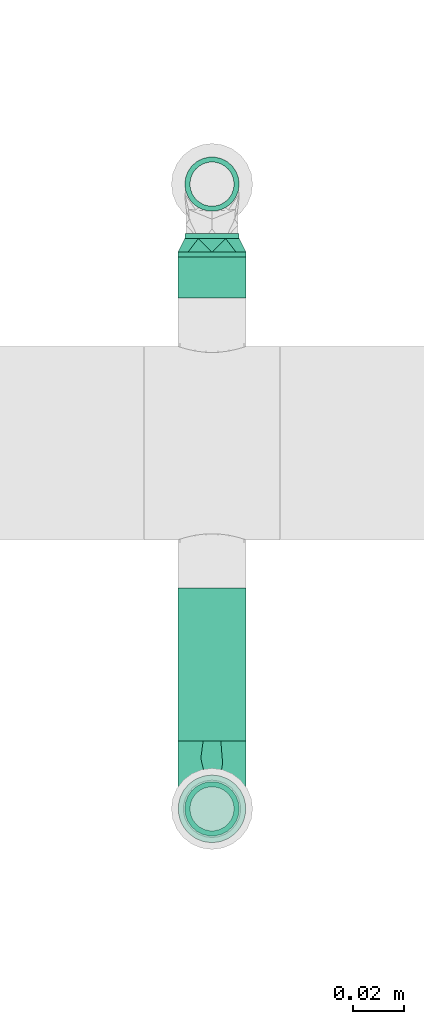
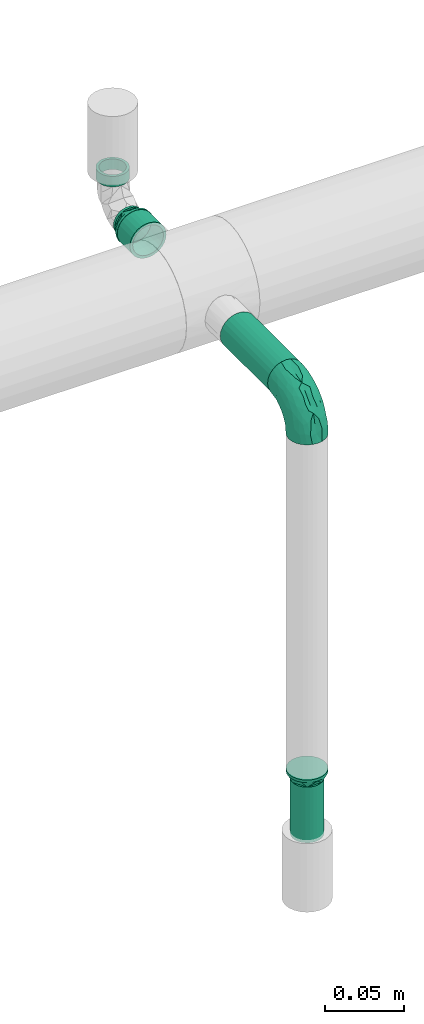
# One storey, part 24 of 51: 4 flow segments, 3 flow fittings.
"""IFC2X3 building model written with IfcOpenShell, lengths in millimetres."""

from ifc_helpers import new_model, entity, si_unit, converted_unit, derived_unit, direction, frame, origin_with_axes, origin_2d_with_axis, place, context, subcontext, project, spatial, hollow_circle, extrude, open_shell, surface_model, source, transform, mapped, type_object, element, save


model = new_model("IFC2X3")

# Units and contexts
model_context = context("Model", 3, precision=0.01, world=frame((0.0, 4.29681676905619e-09, 0.0)), true_north=direction((4.01073788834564e-13, 1.0)))
plan_context = context("Plan", 3, precision=0.01, world=frame((0.0, 4.29681676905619e-09, 0.0)), true_north=direction((4.01073788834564e-13, 1.0)))
body_context = subcontext(model_context, "Body", "Model", "MODEL_VIEW")
ifc_project = project(units=[converted_unit("PLANEANGLEUNIT", "DEGREE", entity("IfcPositiveLengthMeasure", 0.0174532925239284), si_unit("PLANEANGLEUNIT", "RADIAN"), dimensions=[0, 0, 0, 0, 0, 0, 0]), si_unit("AREAUNIT", "SQUARE_METRE"), si_unit("LENGTHUNIT", "METRE", prefix="MILLI"), si_unit("MASSUNIT", "GRAM", prefix="KILO"), si_unit("POWERUNIT", "WATT"), si_unit("PRESSUREUNIT", "PASCAL"), si_unit("FORCEUNIT", "NEWTON", prefix="KILO"), si_unit("ELECTRICVOLTAGEUNIT", "VOLT"), si_unit("ELECTRICCURRENTUNIT", "AMPERE"), si_unit("THERMODYNAMICTEMPERATUREUNIT", "DEGREE_CELSIUS"), si_unit("TIMEUNIT", "SECOND"), si_unit("VOLUMEUNIT", "CUBIC_METRE"), derived_unit("LINEARVELOCITYUNIT", [(si_unit("LENGTHUNIT", "METRE"), 1), (si_unit("TIMEUNIT", "SECOND"), -1)]), derived_unit("VOLUMETRICFLOWRATEUNIT", [(si_unit("VOLUMEUNIT", "CUBIC_METRE"), 1), (si_unit("TIMEUNIT", "SECOND"), -1)]), derived_unit("THERMALTRANSMITTANCEUNIT", [(si_unit("POWERUNIT", "WATT"), 1), (si_unit("THERMODYNAMICTEMPERATUREUNIT", "KELVIN"), -1), (si_unit("AREAUNIT", "SQUARE_METRE"), -1)]), derived_unit("SOUNDPRESSUREUNIT", [(si_unit("PRESSUREUNIT", "PASCAL"), 1)])], contexts=[model_context, plan_context])

# Site, building, storey
site_placement = place(None, frame((0.0, -4.29681676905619e-09, 0.0), z_axis=(0.0, 0.0, 1.0), x_axis=(1.0, 0.0, 0.0)))
site = spatial("IfcSite", under=ifc_project, at=site_placement, Name="ENGM", CompositionType="ELEMENT")
building_placement = place(site_placement, frame((0.0, 4.29681676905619e-09, 0.0), z_axis=(0.0, 0.0, 1.0), x_axis=(1.0, 0.0, 0.0)))
building = spatial("IfcBuilding", under=site, at=building_placement, Name="TH", CompositionType="ELEMENT")
storey_placement = place(building_placement, frame((0.0, 0.0, 210200.0), z_axis=(0.0, 0.0, 1.0), x_axis=(1.0, 0.0, 0.0)))
storey = spatial("IfcBuildingStorey", under=building, at=storey_placement, Name="Nivå F - 0,7 m", CompositionType="ELEMENT", Elevation=210200.0)

# Flow fittings
pipe_fitting_type_1 = type_object("IfcPipeFittingType", Name="magi_pipe_fe_reducer_centric_short_NOR", PredefinedType="TRANSITION")
shared_shape_1 = source(origin_with_axes(), body_context, "Body", "SurfaceModel", [
    surface_model("IfcShellBasedSurfaceModel", [(-2.0, -7.56604, -7.56604), (-2.0, -10.33541, -2.76936), (-2.0, -5.35, -9.26647), (0.0, -10.7, 0.0), (0.0, -5.35, 9.26647), (0.0, -5.35, -9.26647), (-2.0, -2.76936, 10.33541), (-2.0, 0.0, 10.7), (-2.0, -10.33541, 2.76936), (-2.0, -5.35, 9.26647), (-2.0, -7.56604, 7.56604), (-2.0, -9.26647, 5.35), (-2.0, 9.26647, 5.35), (-2.0, 5.35, 9.26647), (-2.0, 7.56604, 7.56604), (-2.0, 2.76936, 10.33541), (-2.0, 10.7, 0.0), (-2.0, 10.33541, -2.76936), (-2.0, 10.33541, 2.76936), (-2.0, -9.26647, -5.35), (-2.0, 5.35, -9.26647), (-2.0, -2.76936, -10.33541), (-2.0, 9.26647, -5.35), (-2.0, 7.56604, -7.56604), (-2.0, 2.76936, -10.33541), (-2.0, 0.0, -10.7), (-2.0, -10.7, 0.0), (0.0, -2.76936, -10.33541), (0.0, 0.0, -10.7), (0.0, -7.56604, -7.56604), (0.0, -10.33541, -2.76936), (0.0, 10.33541, -2.76936), (0.0, -9.26647, -5.35), (0.0, 9.26647, 5.35), (0.0, 2.76936, -10.33541), (0.0, 5.35, -9.26647), (0.0, 9.26647, -5.35), (0.0, 7.56604, -7.56604), (0.0, -10.33541, 2.76936), (0.0, -7.56604, 7.56604), (0.0, -9.26647, 5.35), (0.0, 0.0, 10.7), (0.0, -2.76936, 10.33541), (0.0, 10.7, 0.0), (0.0, 10.33541, 2.76936), (0.0, 5.35, 9.26647), (0.0, 2.76936, 10.33541), (0.0, 7.56604, 7.56604), (7.4, -6.7, -11.60474), (7.4, -3.46818, -12.94341), (7.4, -13.4, 0.0), (7.4, -9.47523, -9.47523), (7.4, -12.94341, -3.46818), (7.4, -11.60474, -6.7), (7.4, 12.94341, -3.46818), (7.4, 3.46818, -12.94341), (7.4, 6.7, -11.60474), (7.4, 0.0, -13.4), (7.4, 11.60474, -6.7), (7.4, 9.47523, -9.47523), (7.4, -12.94341, 3.46818), (7.4, -9.47523, 9.47523), (7.4, -11.60474, 6.7), (7.4, 0.0, 13.4), (7.4, -3.46818, 12.94341), (7.4, -6.7, 11.60474), (7.4, 6.7, 11.60474), (7.4, 11.60474, 6.7), (7.4, 9.47523, 9.47523), (7.4, 12.94341, 3.46818), (7.4, 13.4, 0.0), (7.4, 3.46818, 12.94341), (5.4, -6.7, 11.60474), (5.4, -3.46818, 12.94341), (5.4, 0.0, 13.4), (5.4, 3.46818, 12.94341), (5.4, -12.94341, 3.46818), (5.4, -11.60474, 6.7), (5.4, -9.47523, 9.47523), (5.4, 12.94341, 3.46818), (5.4, 6.7, 11.60474), (5.4, 9.47523, 9.47523), (5.4, 11.60474, 6.7), (5.4, 13.4, 0.0), (5.4, 6.7, -11.60474), (5.4, -9.47523, -9.47523), (5.4, -12.94341, -3.46818), (5.4, -11.60474, -6.7), (5.4, -6.7, -11.60474), (5.4, -3.46818, -12.94341), (5.4, 11.60474, -6.7), (5.4, 9.47523, -9.47523), (5.4, 12.94341, -3.46818), (5.4, 3.46818, -12.94341), (5.4, 0.0, -13.4), (5.4, -13.4, 0.0)], [open_shell([[[0, 1, 2]], [[3, 4, 5]], [[6, 7, 8]], [[9, 6, 10]], [[8, 11, 10]], [[6, 8, 10]], [[12, 8, 7]], [[13, 14, 15]], [[12, 15, 14]], [[16, 17, 18]], [[7, 15, 12]], [[17, 12, 18]], [[1, 8, 12]], [[1, 12, 17]], [[19, 1, 0]], [[17, 2, 1]], [[2, 20, 21]], [[22, 23, 17]], [[20, 17, 23]], [[24, 25, 20]], [[2, 17, 20]], [[20, 25, 21]], [[26, 8, 1]], [[27, 28, 5]], [[29, 5, 30]], [[30, 5, 31]], [[32, 29, 30]], [[30, 31, 33]], [[34, 35, 28]], [[35, 5, 28]], [[36, 31, 37]], [[35, 37, 31]], [[35, 31, 5]], [[38, 3, 30]], [[39, 40, 38]], [[33, 39, 30]], [[39, 41, 42]], [[4, 39, 42]], [[41, 39, 33]], [[43, 44, 31]], [[31, 44, 33]], [[45, 46, 47]], [[33, 47, 46]], [[33, 46, 41]], [[39, 38, 30]], [[16, 31, 17]], [[17, 36, 22]], [[20, 23, 35]], [[37, 23, 22]], [[24, 20, 34]], [[31, 36, 17]], [[16, 43, 31]], [[20, 35, 34]], [[35, 23, 37]], [[22, 36, 37]], [[24, 34, 28]], [[28, 25, 24]], [[25, 27, 21]], [[21, 5, 2]], [[19, 0, 32]], [[29, 0, 2]], [[1, 19, 30]], [[5, 29, 2]], [[21, 27, 5]], [[1, 30, 3]], [[30, 19, 32]], [[0, 29, 32]], [[1, 3, 26]], [[28, 27, 25]], [[26, 38, 8]], [[8, 40, 11]], [[9, 10, 4]], [[39, 10, 11]], [[6, 9, 42]], [[38, 40, 8]], [[26, 3, 38]], [[9, 4, 42]], [[4, 10, 39]], [[11, 40, 39]], [[6, 42, 41]], [[41, 7, 6]], [[7, 46, 15]], [[15, 45, 13]], [[12, 14, 33]], [[47, 14, 13]], [[18, 12, 44]], [[45, 47, 13]], [[15, 46, 45]], [[18, 44, 43]], [[44, 12, 33]], [[14, 47, 33]], [[18, 43, 16]], [[41, 46, 7]], [[4, 45, 43]], [[35, 5, 43]], [[4, 43, 5]], [[48, 49, 50]], [[51, 48, 50]], [[51, 50, 52]], [[53, 51, 52]], [[54, 50, 49]], [[55, 56, 57]], [[56, 49, 57]], [[58, 54, 59]], [[56, 59, 54]], [[56, 54, 49]], [[54, 60, 50]], [[61, 62, 60]], [[63, 61, 60]], [[63, 64, 65]], [[61, 63, 65]], [[66, 63, 60]], [[67, 68, 69]], [[69, 54, 70]], [[68, 66, 69]], [[66, 60, 69]], [[63, 66, 71]], [[60, 54, 69]], [[72, 73, 74]], [[72, 74, 75]], [[76, 77, 78]], [[75, 78, 72]], [[78, 79, 76]], [[80, 81, 75]], [[79, 75, 81]], [[82, 79, 81]], [[79, 78, 75]], [[83, 84, 79]], [[84, 76, 79]], [[85, 86, 76]], [[87, 86, 85]], [[88, 76, 84]], [[76, 88, 85]], [[89, 88, 84]], [[90, 91, 92]], [[91, 83, 92]], [[93, 94, 84]], [[91, 84, 83]], [[84, 94, 89]], [[95, 76, 86]], [[83, 54, 92]], [[92, 58, 90]], [[84, 91, 56]], [[59, 91, 90]], [[93, 84, 55]], [[54, 58, 92]], [[83, 70, 54]], [[84, 56, 55]], [[56, 91, 59]], [[90, 58, 59]], [[93, 55, 57]], [[57, 94, 93]], [[94, 49, 89]], [[89, 48, 88]], [[87, 85, 53]], [[51, 85, 88]], [[86, 87, 52]], [[48, 51, 88]], [[89, 49, 48]], [[86, 52, 50]], [[52, 87, 53]], [[85, 51, 53]], [[86, 50, 95]], [[57, 49, 94]], [[95, 60, 76]], [[76, 62, 77]], [[72, 78, 65]], [[61, 78, 77]], [[73, 72, 64]], [[60, 62, 76]], [[95, 50, 60]], [[72, 65, 64]], [[65, 78, 61]], [[77, 62, 61]], [[73, 64, 63]], [[63, 74, 73]], [[74, 71, 75]], [[75, 66, 80]], [[82, 81, 67]], [[68, 81, 80]], [[79, 82, 69]], [[66, 68, 80]], [[75, 71, 66]], [[79, 69, 70]], [[69, 82, 67]], [[81, 68, 67]], [[79, 70, 83]], [[63, 71, 74]], [[91, 81, 74]], [[74, 78, 95]], [[83, 81, 91]], [[85, 94, 91]], [[91, 95, 85]], [[74, 95, 91]], [[91, 35, 43]], [[43, 83, 91]], [[91, 94, 35]], [[85, 3, 5]], [[5, 94, 85]], [[3, 85, 95]], [[35, 94, 5]], [[78, 4, 3]], [[3, 95, 78]], [[78, 74, 4]], [[81, 43, 45]], [[45, 74, 81]], [[43, 81, 83]], [[4, 74, 45]]])]),
])
flow_fitting_1_placement = place(storey_placement, frame((900100.0, 484410.06933, 2933.0), z_axis=(0.0, 0.0, 1.0), x_axis=(0.0, -1.0, 0.0)))
element("IfcFlowFitting", 1, at=flow_fitting_1_placement, inside=storey, type_object=pipe_fitting_type_1, Name="magi_pipe_fe_reducer_centric_short_NOR", context=body_context, shape_type="MappedRepresentation", body=[
    mapped(shared_shape_1, transform((0.0, 0.0, 0.0), scale=1.0)),
])
shared_shape_2 = source(origin_with_axes(), body_context, "Body", "SurfaceModel", [
    surface_model("IfcShellBasedSurfaceModel", [(-2.0, 7.56604, 7.56604), (-2.0, 9.26647, 5.35), (-2.0, 10.33541, 2.76936), (-2.0, -2.76936, 10.33541), (-2.0, -7.56604, 7.56604), (-2.0, -5.35, 9.26647), (-2.0, -10.33541, 2.76936), (-2.0, -10.33541, -2.76936), (-2.0, -10.7, 0.0), (-2.0, 7.56604, -7.56604), (-2.0, 10.33541, -2.76936), (-2.0, 9.26647, -5.35), (-2.0, -7.56604, -7.56604), (-2.0, -9.26647, -5.35), (-2.0, -5.35, -9.26647), (-2.0, 0.0, -10.7), (-2.0, -2.76936, -10.33541), (-2.0, 2.76936, -10.33541), (-2.0, 10.7, 0.0), (0.0, 5.35, -9.26647), (0.0, 0.0, -10.7), (0.0, 2.76936, -10.33541), (0.0, 10.33541, -2.76936), (0.0, 7.56604, -7.56604), (0.0, 9.26647, -5.35), (0.0, -5.35, -9.26647), (0.0, -2.76936, -10.33541), (0.0, -7.56604, -7.56604), (0.0, -10.33541, -2.76936), (0.0, -9.26647, -5.35), (0.0, 10.33541, 2.76936), (0.0, 9.26647, 5.35), (0.0, 7.56604, 7.56604), (0.0, 2.76936, 10.33541), (0.0, 5.35, 9.26647), (0.0, -7.56604, 7.56604), (0.0, -2.76936, 10.33541), (0.0, -5.35, 9.26647), (0.0, -10.7, 0.0), (-2.0, 5.35, -9.26647), (0.0, 10.7, 0.0), (-2.0, 5.35, 9.26647), (-2.0, 2.76936, 10.33541), (0.0, 0.0, 10.7), (-2.0, 0.0, 10.7), (0.0, -9.26647, 5.35), (-2.0, -9.26647, 5.35), (0.0, -10.33541, 2.76936), (5.4, -12.94341, 3.46818), (5.4, -6.7, -11.60474), (5.4, -9.47523, -9.47523), (5.4, 9.47523, -9.47523), (5.4, 0.0, -13.4), (5.4, -9.47523, 9.47523), (5.4, 0.0, 13.4), (5.4, 9.47523, 9.47523), (7.4, 12.94341, -3.46818), (7.4, 3.46818, -12.94341), (7.4, 6.7, -11.60474), (7.4, 9.47523, -9.47523), (7.4, -6.7, -11.60474), (7.4, -12.94341, 3.46818), (7.4, 11.60474, -6.7), (7.4, 0.0, -13.4), (7.4, -3.46818, -12.94341), (7.4, -9.47523, -9.47523), (7.4, -12.94341, -3.46818), (7.4, -11.60474, -6.7), (7.4, 13.4, 0.0), (7.4, 12.94341, 3.46818), (7.4, 11.60474, 6.7), (7.4, 9.47523, 9.47523), (7.4, 0.0, 13.4), (7.4, 6.7, 11.60474), (7.4, 3.46818, 12.94341), (7.4, -6.7, 11.60474), (7.4, -9.47523, 9.47523), (7.4, -11.60474, 6.7), (7.4, -13.4, 0.0), (7.4, -3.46818, 12.94341), (5.4, 3.46818, 12.94341), (5.4, 6.7, 11.60474), (5.4, -3.46818, 12.94341), (5.4, 11.60474, 6.7), (5.4, 12.94341, 3.46818), (5.4, -6.7, 11.60474), (5.4, -11.60474, 6.7), (5.4, -12.94341, -3.46818), (5.4, -13.4, 0.0), (5.4, 12.94341, -3.46818), (5.4, 11.60474, -6.7), (5.4, 6.7, -11.60474), (5.4, 3.46818, -12.94341), (5.4, -11.60474, -6.7), (5.4, -3.46818, -12.94341), (5.4, 13.4, 0.0)], [open_shell([[[0, 1, 2]], [[3, 4, 5]], [[6, 7, 8]], [[9, 10, 11]], [[7, 12, 13]], [[12, 7, 14]], [[14, 15, 16]], [[17, 15, 14]], [[10, 2, 18]], [[19, 20, 21]], [[22, 19, 23]], [[22, 23, 24]], [[20, 25, 26]], [[20, 19, 25]], [[27, 28, 29]], [[28, 27, 25]], [[30, 31, 32]], [[33, 32, 34]], [[35, 36, 37]], [[7, 28, 8]], [[13, 29, 7]], [[25, 12, 14]], [[13, 12, 27]], [[26, 14, 16]], [[7, 29, 28]], [[28, 38, 8]], [[26, 25, 14]], [[27, 12, 25]], [[27, 29, 13]], [[20, 26, 16]], [[16, 15, 20]], [[17, 21, 15]], [[39, 19, 17]], [[24, 9, 11]], [[39, 9, 23]], [[22, 11, 10]], [[39, 23, 19]], [[19, 21, 17]], [[40, 22, 10]], [[24, 11, 22]], [[24, 23, 9]], [[18, 40, 10]], [[15, 21, 20]], [[2, 30, 18]], [[1, 31, 2]], [[34, 0, 41]], [[1, 0, 32]], [[33, 41, 42]], [[2, 31, 30]], [[30, 40, 18]], [[33, 34, 41]], [[32, 0, 34]], [[32, 31, 1]], [[43, 33, 42]], [[42, 44, 43]], [[3, 36, 44]], [[5, 37, 3]], [[45, 4, 46]], [[5, 4, 35]], [[47, 46, 6]], [[5, 35, 37]], [[37, 36, 3]], [[38, 47, 6]], [[45, 46, 47]], [[45, 35, 4]], [[8, 38, 6]], [[44, 36, 43]], [[38, 37, 25]], [[40, 37, 34]], [[40, 19, 25]], [[40, 25, 37]], [[39, 10, 9]], [[42, 7, 44]], [[41, 7, 42]], [[0, 2, 41]], [[6, 44, 7]], [[3, 44, 4]], [[4, 6, 46]], [[44, 6, 4]], [[41, 2, 7]], [[7, 2, 10]], [[10, 39, 7]], [[17, 7, 39]], [[14, 7, 17]], [[28, 19, 22]], [[43, 28, 22]], [[19, 28, 25]], [[22, 40, 30]], [[30, 32, 33]], [[43, 22, 33]], [[43, 35, 28]], [[47, 35, 45]], [[38, 28, 47]], [[47, 28, 35]], [[36, 35, 43]], [[33, 22, 30]], [[48, 49, 50]], [[51, 52, 19]], [[25, 52, 50]], [[19, 52, 25]], [[53, 54, 37]], [[34, 54, 55]], [[37, 54, 34]], [[56, 57, 58]], [[56, 58, 59]], [[60, 57, 61]], [[56, 59, 62]], [[57, 56, 61]], [[63, 60, 64]], [[63, 57, 60]], [[65, 66, 67]], [[61, 66, 65]], [[65, 60, 61]], [[56, 68, 61]], [[69, 70, 71]], [[69, 71, 72]], [[73, 74, 72]], [[73, 72, 71]], [[69, 72, 75]], [[61, 76, 77]], [[78, 66, 61]], [[61, 75, 76]], [[61, 69, 75]], [[79, 75, 72]], [[61, 68, 69]], [[54, 80, 81]], [[82, 54, 81]], [[55, 83, 84]], [[81, 55, 82]], [[84, 48, 55]], [[82, 53, 85]], [[53, 82, 48]], [[53, 48, 86]], [[82, 55, 48]], [[48, 87, 88]], [[48, 84, 49]], [[89, 51, 84]], [[51, 89, 90]], [[91, 49, 84]], [[84, 51, 91]], [[49, 91, 92]], [[87, 50, 93]], [[87, 48, 50]], [[49, 52, 94]], [[92, 52, 49]], [[95, 89, 84]], [[87, 66, 88]], [[93, 67, 87]], [[60, 50, 49]], [[93, 50, 65]], [[64, 49, 94]], [[87, 67, 66]], [[66, 78, 88]], [[64, 60, 49]], [[65, 50, 60]], [[65, 67, 93]], [[63, 64, 94]], [[94, 52, 63]], [[92, 57, 52]], [[91, 58, 92]], [[62, 51, 90]], [[91, 51, 59]], [[56, 90, 89]], [[91, 59, 58]], [[58, 57, 92]], [[68, 56, 89]], [[62, 90, 56]], [[62, 59, 51]], [[95, 68, 89]], [[52, 57, 63]], [[84, 69, 95]], [[83, 70, 84]], [[73, 55, 81]], [[83, 55, 71]], [[74, 81, 80]], [[84, 70, 69]], [[69, 68, 95]], [[74, 73, 81]], [[71, 55, 73]], [[71, 70, 83]], [[72, 74, 80]], [[80, 54, 72]], [[82, 79, 54]], [[85, 75, 82]], [[77, 53, 86]], [[85, 53, 76]], [[61, 86, 48]], [[85, 76, 75]], [[75, 79, 82]], [[78, 61, 48]], [[77, 86, 61]], [[77, 76, 53]], [[88, 78, 48]], [[54, 79, 72]], [[55, 54, 51]], [[51, 95, 55]], [[88, 54, 53]], [[88, 50, 51]], [[52, 51, 50]], [[88, 51, 54]], [[38, 25, 50]], [[50, 88, 38]], [[19, 40, 51]], [[95, 51, 40]], [[40, 34, 55]], [[55, 95, 40]], [[37, 38, 53]], [[88, 53, 38]]])]),
])
flow_fitting_2_placement = place(storey_placement, frame((900100.0, 484185.40642, 2639.92692999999), z_axis=(0.0, -1.0, 0.0), x_axis=(0.0, 0.0, 1.0)))
element("IfcFlowFitting", 2, at=flow_fitting_2_placement, inside=storey, type_object=pipe_fitting_type_1, Name="magi_pipe_fe_reducer_centric_short_NOR", context=body_context, shape_type="MappedRepresentation", body=[
    mapped(shared_shape_2, transform((0.0, 0.0, 0.0), scale=1.0)),
])
pipe_fitting_type_2 = type_object("IfcPipeFittingType", Name="magi_pipe_fe_elbow_short_001", PredefinedType="BEND")
shared_shape_3 = source(origin_with_axes(), body_context, "Body", "SurfaceModel", [
    surface_model("IfcShellBasedSurfaceModel", [(-26.8, 0.0, -13.4), (-26.8, -12.94341, -3.46818), (-26.8, 3.46818, -12.94341), (-26.8, 6.7, -11.60474), (-26.8, 9.47523, -9.47523), (-26.8, 11.60474, -6.7), (-26.8, 11.60474, 6.7), (-26.8, -9.47523, -9.47523), (-26.8, -6.7, -11.60474), (-26.8, -3.46818, -12.94341), (-26.8, -11.60474, -6.7), (-26.8, -13.4, 0.0), (-26.8, -12.94341, 3.46818), (-26.8, 12.94341, -3.46818), (-26.8, 12.94341, 3.46818), (-26.8, 3.46818, 12.94341), (-26.8, 6.7, 11.60474), (-26.8, 9.47523, 9.47523), (-26.8, -6.7, 11.60474), (-26.8, -11.60474, 6.7), (-26.8, -9.47523, 9.47523), (-26.8, -3.46818, 12.94341), (-26.8, 0.0, 13.4), (-26.8, 13.4, 0.0), (-3.46818, 26.8, -12.94341), (12.94341, 26.8, -3.46818), (0.0, 26.8, -13.4), (-9.47523, 26.8, -9.47523), (-6.7, 26.8, -11.60474), (-11.60474, 26.8, -6.7), (-11.60474, 26.8, 6.7), (6.7, 26.8, -11.60474), (9.47523, 26.8, -9.47523), (3.46818, 26.8, -12.94341), (11.60474, 26.8, -6.7), (12.94341, 26.8, 3.46818), (13.4, 26.8, 0.0), (-13.4, 26.8, 0.0), (-12.94341, 26.8, -3.46818), (-12.94341, 26.8, 3.46818), (-9.47523, 26.8, 9.47523), (-6.7, 26.8, 11.60474), (-3.46818, 26.8, 12.94341), (6.7, 26.8, 11.60474), (9.47523, 26.8, 9.47523), (11.60474, 26.8, 6.7), (3.46818, 26.8, 12.94341), (0.0, 26.8, 13.4), (-17.94383, -11.72186, 4.19396), (-19.61933, -10.40522, 7.51874), (-14.00394, -9.97131, 0.0), (-10.88146, -9.75217, 2.96415), (5.6402, 4.14256, 4.06277), (2.9355, 3.86758, 7.99817), (-0.16552, -0.70254, 6.90229), (-11.69279, -8.47867, 6.74741), (-3.60975, -5.23517, 4.12915), (-20.40197, -11.68565, 0.0), (6.07727, 10.7767, 9.16668), (7.71917, 17.5318, 9.98024), (3.23022, 10.34855, 11.14395), (-17.5318, -7.71917, 9.98024), (-19.6814, -5.06542, 12.05518), (-20.47091, -1.77513, 13.17083), (-18.76435, 2.05404, 13.37716), (-10.34855, -3.23022, 11.14395), (-13.34095, -0.12025, 12.98799), (-20.6562, 5.25542, 12.65822), (-21.01515, 11.15223, 8.78653), (-19.1981, 14.0055, 6.12639), (-23.45804, 12.58298, 5.55254), (-13.79572, 19.62699, 6.0655), (-4.65712, 13.17755, 13.37596), (-9.92557, 9.92557, 13.07441), (-7.97904, 5.85569, 13.33097), (-14.12498, 14.96497, 9.49183), (-23.18377, 8.11481, 10.91864), (-3.49778, 8.97497, 13.15743), (-6.65819, 2.45826, 12.5129), (-1.36893, 7.23965, 12.31444), (-22.3163, 13.71444, 3.37662), (-20.76788, 15.89859, 0.0), (-5.00198, 23.11411, 12.55149), (-1.83653, 20.04451, 13.36709), (5.06542, 19.6814, 12.05518), (-4.60225, -3.19632, 8.30444), (-2.39362, 2.39362, 10.95564), (1.77513, 20.47091, 13.17083), (10.40522, 19.61933, 7.51874), (8.47867, 11.69279, 6.74741), (11.72186, 17.94383, 4.19396), (-10.7767, -6.07727, 9.16668), (-14.71477, 20.20527, 3.11661), (-18.32912, 15.92283, 3.19527), (9.75217, 10.88146, 2.96415), (9.97131, 14.00394, 0.0), (11.68565, 20.40197, 0.0), (-17.32477, 17.32477, 0.0), (8.01422, 6.7, 0.0), (-11.0099, 17.80242, 10.25412), (-8.46783, 20.75346, 11.10693), (-11.06207, 21.36651, 8.74797), (-10.13559, 14.48567, 11.94159), (-5.79525, 18.15733, 12.76163), (-14.31139, 12.02432, 11.13575), (-6.7, -8.01422, 0.0), (-14.72492, 5.73985, 13.1602), (-13.14892, 3.28357, 13.39428), (-14.24576, 9.09225, 12.39421), (-7.80572, 13.90987, 12.83655), (0.12025, 13.34095, 12.98799), (-18.45241, 9.09615, 11.28418), (-1.02036, 0.84565, 9.15855), (-3.66591, -4.13183, 6.30134), (-3.02144, -4.33567, 0.0), (1.56761, -1.1228, 3.23127), (-15.89859, 20.76788, 0.0), (4.33567, 3.02144, 0.0), (0.65711, -0.65711, 0.0), (-21.21323, 1.69434, -13.35639), (-11.59215, 19.61477, -8.94181), (-19.9553, -12.05444, -4.41231), (-20.61911, 5.26132, -12.65979), (-18.29002, 15.89425, -3.37935), (-10.94714, -3.38176, -11.24231), (-11.6358, -0.16715, -12.74497), (-5.38395, -0.22423, -10.97991), (-19.45447, 8.78609, -11.20697), (-21.18665, 11.10723, -8.76769), (8.05635, 19.80434, -10.14754), (-16.16073, 12.27967, -10.10626), (-10.65974, -9.81032, -2.24682), (-4.63434, -6.26604, -3.21731), (-12.41035, 15.57424, -10.31822), (-9.54276, 16.38525, -11.6371), (-12.38435, 12.38435, -11.76567), (-1.18054, -2.52878, -5.66699), (1.17703, 2.36499, -8.51656), (4.94456, 3.94062, -5.27361), (-13.23013, 7.7548, -12.95755), (-18.92609, -10.30887, -7.4546), (-19.80434, -8.05635, -10.14754), (-5.46999, 19.49566, -12.70683), (12.05444, 19.9553, -4.41231), (-22.63124, -5.28269, -12.19553), (-11.57403, -7.91736, -7.4927), (-10.00514, -5.4662, -9.37392), (0.56412, 6.29454, -11.17498), (0.16715, 11.6358, -12.74497), (2.76952, 11.43973, -11.70622), (-22.71135, 13.83144, -2.294), (-13.13887, 21.26515, -5.84046), (-14.02683, 21.74629, -2.98452), (10.30887, 18.92609, -7.4546), (-4.73052, 4.73052, -12.6532), (-16.28385, 15.93209, -6.57302), (-1.69434, 21.21323, -13.35639), (-8.4106, 21.03687, -11.08508), (1.68957, 19.74249, -13.15499), (5.28269, 22.63124, -12.19553), (-19.74249, -1.68957, -13.15499), (-16.96978, -4.62448, -11.91765), (-3.16773, 14.76219, -13.39711), (-7.24575, 7.81916, -13.39239), (-7.92886, 12.7032, -13.00116), (-6.57993, -6.26304, -6.05124), (9.46363, 9.95483, -2.39006), (6.59847, 4.89531, -2.6225), (0.29079, -2.47661, -2.876), (-21.42347, 13.17132, -5.65321), (9.35918, 11.66841, -5.08525), (8.33374, 12.94014, -7.69724), (5.4662, 10.00514, -9.37392), (4.62448, 16.96978, -11.91765), (-3.89324, -2.60816, -8.35445), (5.97121, 7.49007, -7.29975), (-14.76219, 3.16773, -13.39711), (-15.36238, 22.06238, 0.0), (-11.66841, -9.35918, -5.08525), (3.63632, 1.19488, -3.35093), (-14.94382, 15.17624, -8.6945)], [open_shell([[[0, 1, 2]], [[3, 2, 4]], [[5, 2, 1]], [[4, 2, 5]], [[5, 1, 6]], [[7, 1, 8]], [[0, 9, 8]], [[10, 1, 7]], [[8, 1, 0]], [[11, 12, 1]], [[13, 5, 14]], [[5, 6, 14]], [[1, 15, 6]], [[15, 16, 17]], [[6, 15, 17]], [[1, 18, 15]], [[19, 20, 12]], [[18, 12, 20]], [[18, 21, 15]], [[18, 1, 12]], [[15, 21, 22]], [[14, 23, 13]], [[24, 25, 26]], [[27, 24, 28]], [[25, 24, 29]], [[29, 24, 27]], [[30, 25, 29]], [[31, 25, 32]], [[31, 33, 26]], [[32, 25, 34]], [[26, 25, 31]], [[25, 35, 36]], [[37, 29, 38]], [[39, 30, 29]], [[30, 40, 25]], [[40, 41, 42]], [[42, 25, 40]], [[43, 25, 42]], [[35, 44, 45]], [[44, 35, 43]], [[42, 46, 43]], [[35, 25, 43]], [[47, 46, 42]], [[39, 29, 37]], [[48, 49, 19]], [[48, 50, 51]], [[52, 53, 54]], [[55, 51, 56]], [[49, 20, 19]], [[57, 48, 12]], [[58, 59, 60]], [[61, 18, 20]], [[61, 62, 18]], [[22, 63, 64]], [[62, 65, 66]], [[59, 44, 43]], [[22, 21, 63]], [[67, 16, 15]], [[68, 69, 70]], [[30, 39, 71]], [[72, 73, 74]], [[69, 68, 75]], [[22, 64, 15]], [[16, 76, 17]], [[6, 17, 68]], [[77, 78, 79]], [[80, 81, 23]], [[42, 82, 83]], [[43, 84, 59]], [[85, 86, 65]], [[46, 47, 87]], [[88, 89, 90]], [[91, 65, 61]], [[47, 42, 83]], [[71, 92, 93]], [[90, 94, 95]], [[84, 43, 46]], [[88, 90, 45]], [[59, 84, 60]], [[35, 45, 90]], [[75, 71, 69]], [[18, 62, 21]], [[90, 96, 35]], [[97, 81, 93]], [[94, 98, 95]], [[92, 97, 93]], [[50, 48, 57]], [[70, 14, 6]], [[99, 100, 101]], [[40, 101, 100]], [[41, 40, 100]], [[102, 103, 100]], [[103, 72, 83]], [[82, 100, 103]], [[82, 42, 41]], [[99, 104, 102]], [[23, 14, 80]], [[67, 15, 64]], [[51, 50, 105]], [[48, 19, 12]], [[49, 55, 61]], [[45, 44, 88]], [[89, 52, 94]], [[106, 107, 74]], [[108, 67, 106]], [[40, 30, 101]], [[103, 102, 109]], [[103, 109, 72]], [[87, 83, 110]], [[76, 68, 17]], [[68, 111, 104]], [[65, 62, 61]], [[63, 62, 66]], [[91, 61, 55]], [[65, 86, 78]], [[87, 84, 46]], [[110, 79, 60]], [[110, 60, 84]], [[86, 112, 60]], [[55, 49, 48]], [[61, 20, 49]], [[44, 59, 88]], [[89, 88, 59]], [[106, 67, 64]], [[76, 67, 111]], [[53, 52, 89]], [[112, 86, 85]], [[56, 113, 55]], [[112, 54, 53]], [[58, 89, 59]], [[56, 51, 105]], [[114, 115, 56]], [[14, 70, 80]], [[69, 71, 93]], [[37, 116, 92]], [[92, 116, 97]], [[30, 71, 101]], [[75, 101, 71]], [[99, 102, 100]], [[108, 104, 111]], [[106, 74, 73]], [[110, 83, 72]], [[78, 74, 66]], [[72, 74, 77]], [[83, 87, 47]], [[84, 87, 110]], [[62, 63, 21]], [[64, 63, 66]], [[12, 11, 57]], [[96, 90, 95]], [[96, 36, 35]], [[115, 117, 52]], [[56, 105, 114]], [[55, 48, 51]], [[89, 94, 90]], [[52, 98, 94]], [[106, 64, 107]], [[108, 106, 73]], [[102, 108, 73]], [[67, 108, 111]], [[102, 104, 108]], [[68, 104, 75]], [[64, 66, 107]], [[66, 74, 107]], [[65, 78, 66]], [[79, 78, 86]], [[60, 79, 86]], [[77, 79, 110]], [[72, 77, 110]], [[78, 77, 74]], [[67, 76, 16]], [[68, 76, 111]], [[100, 82, 41]], [[83, 82, 103]], [[68, 70, 6]], [[80, 69, 93]], [[69, 80, 70]], [[80, 93, 81]], [[55, 85, 91]], [[85, 65, 91]], [[60, 53, 58]], [[53, 89, 58]], [[54, 112, 85]], [[60, 112, 53]], [[85, 113, 54]], [[113, 115, 54]], [[55, 113, 85]], [[115, 113, 56]], [[71, 39, 92]], [[115, 114, 118]], [[37, 92, 39]], [[101, 75, 99]], [[99, 75, 104]], [[102, 73, 109]], [[72, 109, 73]], [[54, 115, 52]], [[117, 115, 118]], [[117, 98, 52]], [[2, 119, 0]], [[29, 27, 120]], [[121, 57, 1]], [[3, 122, 2]], [[97, 123, 81]], [[124, 125, 126]], [[127, 4, 128]], [[32, 129, 31]], [[127, 128, 130]], [[131, 132, 105]], [[133, 134, 135]], [[127, 3, 4]], [[136, 137, 138]], [[139, 122, 127]], [[4, 5, 128]], [[10, 140, 121]], [[141, 140, 7]], [[24, 142, 28]], [[95, 143, 96]], [[144, 8, 9]], [[145, 141, 146]], [[25, 36, 96]], [[147, 148, 149]], [[140, 10, 7]], [[23, 81, 150]], [[130, 133, 135]], [[151, 152, 38]], [[153, 34, 143]], [[147, 154, 148]], [[38, 29, 151]], [[120, 155, 151]], [[32, 153, 129]], [[26, 156, 24]], [[24, 156, 142]], [[143, 34, 25]], [[27, 28, 157]], [[123, 152, 155]], [[158, 33, 159]], [[144, 160, 161]], [[122, 3, 127]], [[148, 162, 158]], [[157, 28, 142]], [[162, 163, 164]], [[159, 33, 31]], [[165, 136, 132]], [[34, 153, 32]], [[166, 98, 167]], [[160, 9, 0]], [[161, 160, 125]], [[95, 166, 143]], [[50, 131, 105]], [[121, 1, 10]], [[168, 114, 132]], [[150, 169, 13]], [[167, 98, 117]], [[33, 158, 26]], [[164, 142, 162]], [[133, 157, 134]], [[7, 8, 141]], [[165, 145, 146]], [[170, 171, 153]], [[129, 172, 173]], [[126, 137, 174]], [[175, 137, 172]], [[148, 158, 173]], [[156, 158, 162]], [[149, 172, 147]], [[148, 154, 163]], [[119, 160, 0]], [[176, 163, 125]], [[176, 125, 160]], [[125, 154, 126]], [[169, 128, 5]], [[127, 130, 135]], [[139, 127, 135]], [[119, 122, 176]], [[120, 151, 29]], [[152, 97, 177]], [[142, 164, 134]], [[120, 27, 157]], [[152, 37, 38]], [[81, 123, 150]], [[123, 155, 169]], [[152, 123, 97]], [[140, 178, 121]], [[121, 178, 131]], [[144, 141, 8]], [[146, 141, 161]], [[25, 96, 143]], [[170, 153, 143]], [[129, 153, 171]], [[159, 129, 173]], [[137, 147, 172]], [[126, 154, 147]], [[172, 171, 175]], [[174, 137, 136]], [[137, 126, 147]], [[126, 146, 124]], [[117, 118, 179]], [[179, 138, 167]], [[128, 169, 155]], [[5, 13, 169]], [[57, 121, 50]], [[57, 11, 1]], [[122, 119, 2]], [[160, 119, 176]], [[158, 156, 26]], [[142, 156, 162]], [[162, 148, 163]], [[139, 135, 164]], [[125, 163, 154]], [[139, 163, 176]], [[163, 139, 164]], [[122, 139, 176]], [[155, 180, 128]], [[180, 120, 133]], [[180, 133, 130]], [[157, 133, 120]], [[142, 134, 157]], [[164, 135, 134]], [[128, 180, 130]], [[120, 180, 155]], [[152, 151, 155]], [[37, 152, 177]], [[169, 150, 123]], [[23, 150, 13]], [[121, 131, 50]], [[178, 165, 132]], [[178, 132, 131]], [[168, 132, 136]], [[145, 165, 178]], [[174, 165, 146]], [[178, 140, 145]], [[141, 145, 140]], [[179, 136, 138]], [[170, 166, 167]], [[168, 179, 118]], [[170, 167, 138]], [[143, 166, 170]], [[95, 98, 166]], [[117, 179, 167]], [[136, 179, 168]], [[129, 159, 31]], [[158, 159, 173]], [[160, 144, 9]], [[141, 144, 161]], [[175, 170, 138]], [[129, 171, 172]], [[170, 175, 171]], [[137, 175, 138]], [[148, 173, 149]], [[172, 149, 173]], [[165, 174, 136]], [[126, 174, 146]], [[146, 161, 124]], [[125, 124, 161]], [[114, 168, 118]], [[114, 105, 132]]])]),
])
flow_fitting_3_placement = place(storey_placement, frame((900100.0, 484185.40642, 2933.0), z_axis=(1.0, 0.0, 0.0), x_axis=(0.0, -1.0, 0.0)))
element("IfcFlowFitting", 3, at=flow_fitting_3_placement, inside=storey, type_object=pipe_fitting_type_2, Name="magi_pipe_fe_elbow_short_001", context=body_context, shape_type="MappedRepresentation", body=[
    mapped(shared_shape_3, transform((0.0, 0.0, 0.0), scale=1.0)),
])

# Flow segments
pipe_segment_type = type_object("IfcPipeSegmentType", Name="Stålrør normaltykke", PredefinedType="RIGIDSEGMENT")
shared_shape_4 = source(origin_with_axes(), body_context, "Body", "SweptSolid", [
    extrude(hollow_circle(Radius=10.7, WallThickness=2.0, at=origin_2d_with_axis()), frame((0.0, 0.0, 0.0), z_axis=(1.0, 0.0, 0.0), x_axis=(0.0, 1.0, 0.0)), (0.0, 0.0, 1.0), 43.0),
])
flow_segment_1_placement = place(storey_placement, frame((900100.0, 484185.40642, 2596.95199999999), z_axis=(0.0, -1.0, 0.0), x_axis=(0.0, 0.0, 1.0)))
element("IfcFlowSegment", 4, at=flow_segment_1_placement, inside=storey, type_object=pipe_segment_type, Name="Stålrør normaltykke", context=body_context, shape_type="MappedRepresentation", body=[
    mapped(shared_shape_4, transform((0.0, 0.0, 0.0), scale=1.0)),
])
shared_shape_5 = source(origin_with_axes(), body_context, "Body", "SweptSolid", [
    extrude(hollow_circle(Radius=13.3, WallThickness=2.0, at=origin_2d_with_axis()), frame((0.0, 0.0, 0.0), z_axis=(1.0, 0.0, 0.0), x_axis=(0.0, 1.0, 0.0)), (0.0, 0.0, 1.0), 18.1),
])
flow_segment_2_placement = place(storey_placement, frame((900100.0, 484386.60519, 2933.0), z_axis=(0.0, 0.0, 1.0), x_axis=(0.0, 1.0, 0.0)))
element("IfcFlowSegment", 5, at=flow_segment_2_placement, inside=storey, type_object=pipe_segment_type, Name="Stålrør normaltykke", context=body_context, shape_type="MappedRepresentation", body=[
    mapped(shared_shape_5, transform((0.0, 0.0, 0.0), scale=1.0)),
])
shared_shape_6 = source(origin_with_axes(), body_context, "Body", "SweptSolid", [
    extrude(hollow_circle(Radius=10.7, WallThickness=2.0, at=origin_2d_with_axis()), frame((0.0, 0.0, 0.0), z_axis=(1.0, 0.0, 0.0), x_axis=(0.0, 1.0, 0.0)), (0.0, 0.0, 1.0), 8.1),
])
flow_segment_3_placement = place(storey_placement, frame((900100.0, 484431.46933, 2962.54800000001), z_axis=(0.0, 1.0, 0.0), x_axis=(0.0, 0.0, -1.0)))
element("IfcFlowSegment", 6, at=flow_segment_3_placement, inside=storey, type_object=pipe_segment_type, Name="Stålrør normaltykke", context=body_context, shape_type="MappedRepresentation", body=[
    mapped(shared_shape_6, transform((0.0, 0.0, 0.0), scale=1.0)),
])
shared_shape_7 = source(origin_with_axes(), body_context, "Body", "SweptSolid", [
    extrude(hollow_circle(Radius=13.3, WallThickness=2.0, at=origin_2d_with_axis()), frame((0.0, 0.0, 0.0), z_axis=(1.0, 0.0, 0.0), x_axis=(0.0, 1.0, 0.0)), (0.0, 0.0, 1.0), 60.1),
])
flow_segment_4_placement = place(storey_placement, frame((900100.0, 484272.30519, 2933.0), z_axis=(0.0, 0.0, 1.0), x_axis=(0.0, -1.0, 0.0)))
element("IfcFlowSegment", 7, at=flow_segment_4_placement, inside=storey, type_object=pipe_segment_type, Name="Stålrør normaltykke", context=body_context, shape_type="MappedRepresentation", body=[
    mapped(shared_shape_7, transform((0.0, 0.0, 0.0), scale=1.0)),
])

save(model, "model.ifc")
